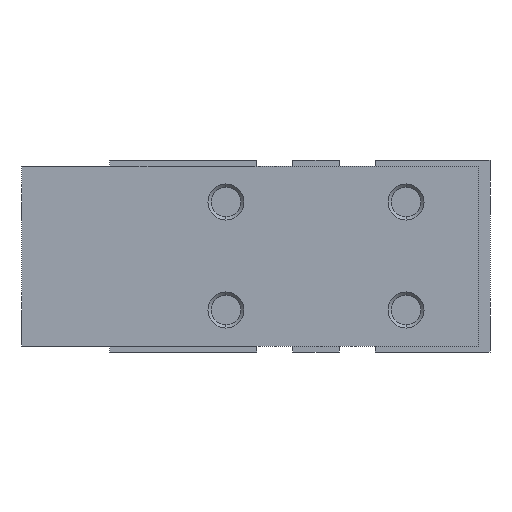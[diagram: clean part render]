
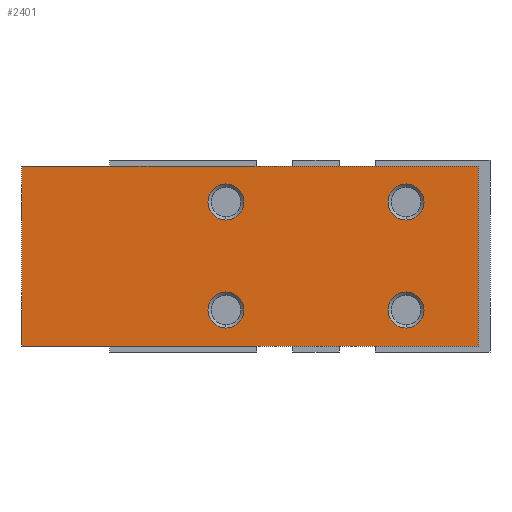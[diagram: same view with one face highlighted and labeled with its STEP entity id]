
A CAD part, left-side view. The second image highlights one B-rep face of the part: STEP entity #2401.
In plain terms, the highlighted planar face has unit normal (-1, 0, 0).
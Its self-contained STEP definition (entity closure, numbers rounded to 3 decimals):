
#91 = VECTOR ( 'NONE', #5243, 1000. ) ;
#107 = VERTEX_POINT ( 'NONE', #4568 ) ;
#154 = DIRECTION ( 'NONE',  ( -1., 0., 0. ) ) ;
#229 = ORIENTED_EDGE ( 'NONE', *, *, #1040, .F. ) ;
#310 = VERTEX_POINT ( 'NONE', #4730 ) ;
#458 = CARTESIAN_POINT ( 'NONE',  ( -8.5, -13.5, 7.5 ) ) ;
#622 = FACE_OUTER_BOUND ( 'NONE', #2768, .T. ) ;
#704 = FACE_BOUND ( 'NONE', #5638, .T. ) ;
#854 = CIRCLE ( 'NONE', #1248, 1.5 ) ;
#893 = ORIENTED_EDGE ( 'NONE', *, *, #1079, .F. ) ;
#918 = CARTESIAN_POINT ( 'NONE',  ( -8.5, 7.5, 6. ) ) ;
#947 = CIRCLE ( 'NONE', #2466, 1.5 ) ;
#1015 = AXIS2_PLACEMENT_3D ( 'NONE', #4728, #2803, #4161 ) ;
#1029 = DIRECTION ( 'NONE',  ( -1., 0., 0. ) ) ;
#1038 = CARTESIAN_POINT ( 'NONE',  ( -8.5, 24.5, 7.5 ) ) ;
#1040 = EDGE_CURVE ( 'NONE', #4275, #1984, #5205, .T. ) ;
#1079 = EDGE_CURVE ( 'NONE', #2802, #5379, #1770, .T. ) ;
#1103 = DIRECTION ( 'NONE',  ( 0., -1., 0. ) ) ;
#1248 = AXIS2_PLACEMENT_3D ( 'NONE', #5065, #3102, #5508 ) ;
#1266 = CARTESIAN_POINT ( 'NONE',  ( -8.5, -7.5, 4.5 ) ) ;
#1288 = EDGE_CURVE ( 'NONE', #310, #4908, #854, .T. ) ;
#1570 = CARTESIAN_POINT ( 'NONE',  ( -8.5, 7.5, 4.5 ) ) ;
#1657 = DIRECTION ( 'NONE',  ( -1., 0., 0. ) ) ;
#1692 = EDGE_CURVE ( 'NONE', #2309, #4558, #5592, .T. ) ;
#1753 = VECTOR ( 'NONE', #4277, 1000. ) ;
#1758 = CIRCLE ( 'NONE', #2567, 1.5 ) ;
#1770 = CIRCLE ( 'NONE', #2487, 1.5 ) ;
#1790 = VERTEX_POINT ( 'NONE', #4680 ) ;
#1888 = EDGE_LOOP ( 'NONE', ( #3709, #5215 ) ) ;
#1960 = CARTESIAN_POINT ( 'NONE',  ( -8.5, 7.5, -6. ) ) ;
#1963 = EDGE_CURVE ( 'NONE', #4908, #310, #4116, .T. ) ;
#1984 = VERTEX_POINT ( 'NONE', #4869 ) ;
#2054 = DIRECTION ( 'NONE',  ( 0., 0., 1. ) ) ;
#2151 = CARTESIAN_POINT ( 'NONE',  ( -8.5, 7.5, -4.5 ) ) ;
#2179 = ORIENTED_EDGE ( 'NONE', *, *, #4117, .T. ) ;
#2199 = AXIS2_PLACEMENT_3D ( 'NONE', #5461, #154, #2054 ) ;
#2309 = VERTEX_POINT ( 'NONE', #6245 ) ;
#2398 = CARTESIAN_POINT ( 'NONE',  ( -8.5, 24.5, -7.5 ) ) ;
#2401 = ADVANCED_FACE ( 'NONE', ( #622, #704, #3588, #4499, #2633 ), #4059, .F. ) ;
#2466 = AXIS2_PLACEMENT_3D ( 'NONE', #5127, #1657, #3136 ) ;
#2478 = VECTOR ( 'NONE', #1103, 1000. ) ;
#2487 = AXIS2_PLACEMENT_3D ( 'NONE', #1570, #1029, #4414 ) ;
#2567 = AXIS2_PLACEMENT_3D ( 'NONE', #2151, #3603, #3664 ) ;
#2633 = FACE_BOUND ( 'NONE', #2831, .T. ) ;
#2768 = EDGE_LOOP ( 'NONE', ( #2179, #3872, #5850, #5976 ) ) ;
#2794 = LINE ( 'NONE', #458, #1753 ) ;
#2802 = VERTEX_POINT ( 'NONE', #918 ) ;
#2803 = DIRECTION ( 'NONE',  ( -1., 0., 0. ) ) ;
#2831 = EDGE_LOOP ( 'NONE', ( #893, #4502 ) ) ;
#2887 = AXIS2_PLACEMENT_3D ( 'NONE', #6242, #5299, #5987 ) ;
#2930 = VERTEX_POINT ( 'NONE', #3974 ) ;
#2970 = AXIS2_PLACEMENT_3D ( 'NONE', #3016, #4440, #5389 ) ;
#3016 = CARTESIAN_POINT ( 'NONE',  ( -8.5, 24.5, 7.5 ) ) ;
#3060 = CARTESIAN_POINT ( 'NONE',  ( -8.5, -7.5, 3. ) ) ;
#3102 = DIRECTION ( 'NONE',  ( -1., 0., 0. ) ) ;
#3136 = DIRECTION ( 'NONE',  ( 0., 0., 1. ) ) ;
#3200 = ORIENTED_EDGE ( 'NONE', *, *, #3894, .F. ) ;
#3218 = DIRECTION ( 'NONE',  ( 0., 0., -1. ) ) ;
#3245 = EDGE_CURVE ( 'NONE', #5379, #2802, #5862, .T. ) ;
#3444 = LINE ( 'NONE', #1038, #91 ) ;
#3471 = EDGE_CURVE ( 'NONE', #107, #5635, #947, .T. ) ;
#3588 = FACE_BOUND ( 'NONE', #4903, .T. ) ;
#3590 = EDGE_CURVE ( 'NONE', #2930, #1790, #2794, .T. ) ;
#3603 = DIRECTION ( 'NONE',  ( -1., 0., 0. ) ) ;
#3626 = CARTESIAN_POINT ( 'NONE',  ( -8.5, 7.5, 3. ) ) ;
#3664 = DIRECTION ( 'NONE',  ( 0., 0., 1. ) ) ;
#3709 = ORIENTED_EDGE ( 'NONE', *, *, #1963, .F. ) ;
#3872 = ORIENTED_EDGE ( 'NONE', *, *, #3590, .F. ) ;
#3894 = EDGE_CURVE ( 'NONE', #5635, #107, #1758, .T. ) ;
#3974 = CARTESIAN_POINT ( 'NONE',  ( -8.5, -13.5, 7.5 ) ) ;
#4019 = DIRECTION ( 'NONE',  ( -1., 0., 0. ) ) ;
#4059 = PLANE ( 'NONE',  #2970 ) ;
#4116 = CIRCLE ( 'NONE', #2199, 1.5 ) ;
#4117 = EDGE_CURVE ( 'NONE', #4558, #1790, #4926, .T. ) ;
#4161 = DIRECTION ( 'NONE',  ( 0., 0., 1. ) ) ;
#4211 = ORIENTED_EDGE ( 'NONE', *, *, #6169, .F. ) ;
#4258 = ORIENTED_EDGE ( 'NONE', *, *, #3471, .F. ) ;
#4275 = VERTEX_POINT ( 'NONE', #3060 ) ;
#4277 = DIRECTION ( 'NONE',  ( 0., 0., -1. ) ) ;
#4342 = VECTOR ( 'NONE', #3218, 1000. ) ;
#4414 = DIRECTION ( 'NONE',  ( 0., 0., 1. ) ) ;
#4440 = DIRECTION ( 'NONE',  ( 1., 0., 0. ) ) ;
#4484 = CARTESIAN_POINT ( 'NONE',  ( -8.5, 24.5, -7.5 ) ) ;
#4499 = FACE_BOUND ( 'NONE', #1888, .T. ) ;
#4502 = ORIENTED_EDGE ( 'NONE', *, *, #3245, .F. ) ;
#4558 = VERTEX_POINT ( 'NONE', #2398 ) ;
#4568 = CARTESIAN_POINT ( 'NONE',  ( -8.5, 7.5, -3. ) ) ;
#4680 = CARTESIAN_POINT ( 'NONE',  ( -8.5, -13.5, -7.5 ) ) ;
#4728 = CARTESIAN_POINT ( 'NONE',  ( -8.5, 7.5, 4.5 ) ) ;
#4730 = CARTESIAN_POINT ( 'NONE',  ( -8.5, -7.5, -6. ) ) ;
#4869 = CARTESIAN_POINT ( 'NONE',  ( -8.5, -7.5, 6. ) ) ;
#4903 = EDGE_LOOP ( 'NONE', ( #4211, #229 ) ) ;
#4908 = VERTEX_POINT ( 'NONE', #6011 ) ;
#4926 = LINE ( 'NONE', #4484, #2478 ) ;
#5065 = CARTESIAN_POINT ( 'NONE',  ( -8.5, -7.5, -4.5 ) ) ;
#5086 = CARTESIAN_POINT ( 'NONE',  ( -8.5, 24.5, 7.5 ) ) ;
#5127 = CARTESIAN_POINT ( 'NONE',  ( -8.5, 7.5, -4.5 ) ) ;
#5205 = CIRCLE ( 'NONE', #2887, 1.5 ) ;
#5215 = ORIENTED_EDGE ( 'NONE', *, *, #1288, .F. ) ;
#5243 = DIRECTION ( 'NONE',  ( 0., -1., 0. ) ) ;
#5299 = DIRECTION ( 'NONE',  ( -1., 0., 0. ) ) ;
#5339 = AXIS2_PLACEMENT_3D ( 'NONE', #1266, #4019, #5949 ) ;
#5379 = VERTEX_POINT ( 'NONE', #3626 ) ;
#5389 = DIRECTION ( 'NONE',  ( 0., 1., 0. ) ) ;
#5430 = CIRCLE ( 'NONE', #5339, 1.5 ) ;
#5461 = CARTESIAN_POINT ( 'NONE',  ( -8.5, -7.5, -4.5 ) ) ;
#5508 = DIRECTION ( 'NONE',  ( 0., 0., 1. ) ) ;
#5592 = LINE ( 'NONE', #5086, #4342 ) ;
#5635 = VERTEX_POINT ( 'NONE', #1960 ) ;
#5638 = EDGE_LOOP ( 'NONE', ( #4258, #3200 ) ) ;
#5662 = EDGE_CURVE ( 'NONE', #2309, #2930, #3444, .T. ) ;
#5850 = ORIENTED_EDGE ( 'NONE', *, *, #5662, .F. ) ;
#5862 = CIRCLE ( 'NONE', #1015, 1.5 ) ;
#5949 = DIRECTION ( 'NONE',  ( 0., 0., 1. ) ) ;
#5976 = ORIENTED_EDGE ( 'NONE', *, *, #1692, .T. ) ;
#5987 = DIRECTION ( 'NONE',  ( 0., 0., 1. ) ) ;
#6011 = CARTESIAN_POINT ( 'NONE',  ( -8.5, -7.5, -3. ) ) ;
#6169 = EDGE_CURVE ( 'NONE', #1984, #4275, #5430, .T. ) ;
#6242 = CARTESIAN_POINT ( 'NONE',  ( -8.5, -7.5, 4.5 ) ) ;
#6245 = CARTESIAN_POINT ( 'NONE',  ( -8.5, 24.5, 7.5 ) ) ;
